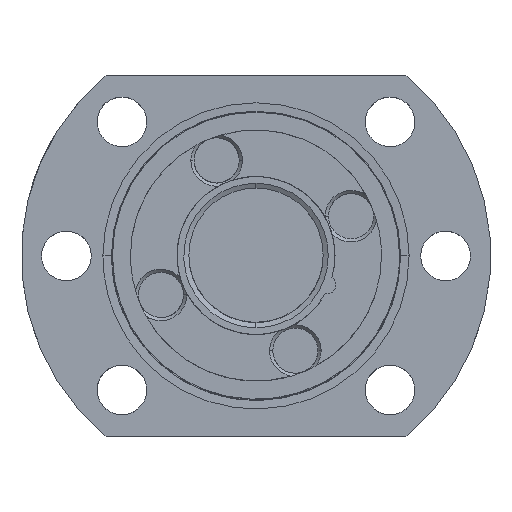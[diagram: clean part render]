
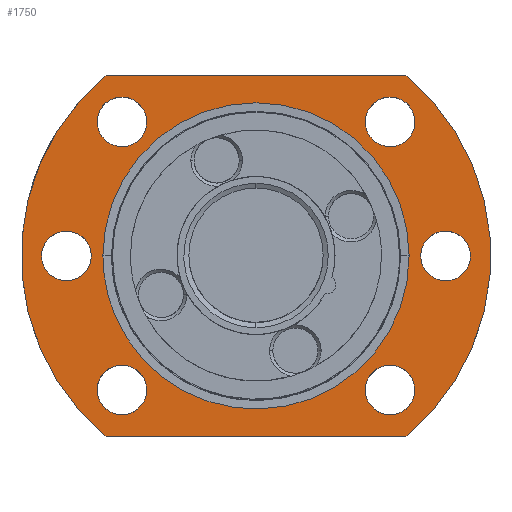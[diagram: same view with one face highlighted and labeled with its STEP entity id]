
A CAD part, top view. The second image highlights one B-rep face of the part: STEP entity #1750.
In plain terms, the highlighted planar face has unit normal (0, 0, 1).
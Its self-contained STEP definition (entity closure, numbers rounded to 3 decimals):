
#10=CARTESIAN_POINT('',(48.829,-26.59,90.));
#20=DIRECTION('',(0.,0.,-1.));
#30=DIRECTION('',(-1.,0.,-0.));
#40=AXIS2_PLACEMENT_3D('',#10,#20,#30);
#50=PLANE('',#40);
#60=CARTESIAN_POINT('',(0.,0.,90.));
#70=DIRECTION('',(0.,0.,-1.));
#80=DIRECTION('',(-1.,0.,0.));
#90=AXIS2_PLACEMENT_3D('',#60,#70,#80);
#100=CIRCLE('',#90,26.);
#110=CARTESIAN_POINT('',(-16.613,-20.,90.));
#120=VERTEX_POINT('217347-1430975224-643150304734-0 3373899',#110);
#130=CARTESIAN_POINT('',(-16.613,20.,90.));
#140=VERTEX_POINT('217347-1430975224-643150304734-0 3373917',#130);
#150=EDGE_CURVE('217347-1430975224-643150304734-0 3373927',#120,#140,
#100,.T.);
#160=ORIENTED_EDGE('',*,*,#150,.F.);
#170=CARTESIAN_POINT('',(0.,20.,90.));
#180=DIRECTION('',(1.,-0.,0.));
#190=VECTOR('',#180,1.);
#200=LINE('',#170,#190);
#210=CARTESIAN_POINT('',(16.613,20.,90.));
#220=VERTEX_POINT('217347-1430975224-643150304734-0 3373908',#210);
#230=EDGE_CURVE('217347-1430975224-643150304734-0 3373921',#140,#220,
#200,.T.);
#240=ORIENTED_EDGE('',*,*,#230,.F.);
#250=CARTESIAN_POINT('',(0.,0.,90.));
#260=DIRECTION('',(0.,0.,-1.));
#270=DIRECTION('',(-1.,0.,0.));
#280=AXIS2_PLACEMENT_3D('',#250,#260,#270);
#290=CIRCLE('',#280,26.);
#300=CARTESIAN_POINT('',(16.613,-20.,90.));
#310=VERTEX_POINT('217347-1430975224-643150304734-0 3373896',#300);
#320=EDGE_CURVE('217347-1430975224-643150304734-0 3373912',#220,#310,
#290,.T.);
#330=ORIENTED_EDGE('',*,*,#320,.F.);
#340=CARTESIAN_POINT('',(0.,-20.,90.));
#350=DIRECTION('',(-1.,-0.,0.));
#360=VECTOR('',#350,1.);
#370=LINE('',#340,#360);
#380=EDGE_CURVE('217347-1430975224-643150304734-0 3373903',#310,#120,
#370,.T.);
#390=ORIENTED_EDGE('',*,*,#380,.F.);
#400=EDGE_LOOP('',(#390,#330,#240,#160));
#410=FACE_OUTER_BOUND('',#400,.T.);
#420=CARTESIAN_POINT('',(21.,0.,90.));
#430=DIRECTION('',(0.,0.,-1.));
#440=DIRECTION('',(-1.,0.,0.));
#450=AXIS2_PLACEMENT_3D('',#420,#430,#440);
#460=CIRCLE('',#450,2.75);
#470=CARTESIAN_POINT('',(23.75,0.,90.));
#480=VERTEX_POINT('',#470);
#490=CARTESIAN_POINT('',(18.25,0.,90.));
#500=VERTEX_POINT('',#490);
#510=EDGE_CURVE('217347-1430975224-643150304734-0 3373941',#480,#500,
#460,.T.);
#520=ORIENTED_EDGE('',*,*,#510,.T.);
#530=CARTESIAN_POINT('',(22.945,1.945,90.));
#540=VERTEX_POINT('217347-1430975224-643150304734-0 3373937',#530);
#550=EDGE_CURVE('217347-1430975224-643150304734-0 3373941',#540,#480,
#460,.T.);
#560=ORIENTED_EDGE('',*,*,#550,.T.);
#570=EDGE_CURVE('217347-1430975224-643150304734-0 3373941',#500,#540,
#460,.T.);
#580=ORIENTED_EDGE('',*,*,#570,.T.);
#590=EDGE_LOOP('',(#580,#560,#520));
#600=FACE_BOUND('',#590,.T.);
#610=CARTESIAN_POINT('',(14.849,-14.849,90.));
#620=DIRECTION('',(0.,0.,-1.));
#630=DIRECTION('',(-1.,0.,0.));
#640=AXIS2_PLACEMENT_3D('',#610,#620,#630);
#650=CIRCLE('',#640,2.75);
#660=CARTESIAN_POINT('',(17.599,-14.849,90.));
#670=VERTEX_POINT('',#660);
#680=CARTESIAN_POINT('',(12.099,-14.849,90.));
#690=VERTEX_POINT('',#680);
#700=EDGE_CURVE('217347-1430975224-643150304734-0 3373961',#670,#690,
#650,.T.);
#710=ORIENTED_EDGE('',*,*,#700,.T.);
#720=CARTESIAN_POINT('',(16.794,-12.905,90.));
#730=VERTEX_POINT('217347-1430975224-643150304734-0 3373957',#720);
#740=EDGE_CURVE('217347-1430975224-643150304734-0 3373961',#730,#670,
#650,.T.);
#750=ORIENTED_EDGE('',*,*,#740,.T.);
#760=EDGE_CURVE('217347-1430975224-643150304734-0 3373961',#690,#730,
#650,.T.);
#770=ORIENTED_EDGE('',*,*,#760,.T.);
#780=EDGE_LOOP('',(#770,#750,#710));
#790=FACE_BOUND('',#780,.T.);
#800=CARTESIAN_POINT('',(-21.,0.,90.));
#810=DIRECTION('',(0.,0.,-1.));
#820=DIRECTION('',(-1.,0.,0.));
#830=AXIS2_PLACEMENT_3D('',#800,#810,#820);
#840=CIRCLE('',#830,2.75);
#850=CARTESIAN_POINT('',(-23.75,0.,90.));
#860=VERTEX_POINT('',#850);
#870=CARTESIAN_POINT('',(-18.25,0.,90.));
#880=VERTEX_POINT('',#870);
#890=EDGE_CURVE('217347-1430975224-643150304734-0 3373981',#860,#880,
#840,.T.);
#900=ORIENTED_EDGE('',*,*,#890,.T.);
#910=CARTESIAN_POINT('',(-22.945,-1.945,90.));
#920=VERTEX_POINT('217347-1430975224-643150304734-0 3373974',#910);
#930=EDGE_CURVE('217347-1430975224-643150304734-0 3373981',#920,#860,
#840,.T.);
#940=ORIENTED_EDGE('',*,*,#930,.T.);
#950=EDGE_CURVE('217347-1430975224-643150304734-0 3373981',#880,#920,
#840,.T.);
#960=ORIENTED_EDGE('',*,*,#950,.T.);
#970=EDGE_LOOP('',(#960,#940,#900));
#980=FACE_BOUND('',#970,.T.);
#990=CARTESIAN_POINT('',(14.849,14.849,90.));
#1000=DIRECTION('',(0.,0.,-1.));
#1010=DIRECTION('',(-1.,0.,0.));
#1020=AXIS2_PLACEMENT_3D('',#990,#1000,#1010);
#1030=CIRCLE('',#1020,2.75);
#1040=CARTESIAN_POINT('',(12.099,14.849,90.));
#1050=VERTEX_POINT('',#1040);
#1060=CARTESIAN_POINT('',(17.599,14.849,90.));
#1070=VERTEX_POINT('',#1060);
#1080=EDGE_CURVE('217347-1430975224-643150304734-0 3374001',#1050,#1070,
#1030,.T.);
#1090=ORIENTED_EDGE('',*,*,#1080,.T.);
#1100=CARTESIAN_POINT('',(12.905,12.905,90.));
#1110=VERTEX_POINT('217347-1430975224-643150304734-0 3373994',#1100);
#1120=EDGE_CURVE('217347-1430975224-643150304734-0 3374001',#1110,#1050,
#1030,.T.);
#1130=ORIENTED_EDGE('',*,*,#1120,.T.);
#1140=EDGE_CURVE('217347-1430975224-643150304734-0 3374001',#1070,#1110,
#1030,.T.);
#1150=ORIENTED_EDGE('',*,*,#1140,.T.);
#1160=EDGE_LOOP('',(#1150,#1130,#1090));
#1170=FACE_BOUND('',#1160,.T.);
#1180=CARTESIAN_POINT('',(0.,0.,
90.));
#1190=DIRECTION('',(0.,0.,1.));
#1200=DIRECTION('',(1.,0.,0.));
#1210=AXIS2_PLACEMENT_3D('',#1180,#1190,#1200);
#1220=CIRCLE('',#1210,16.959);
#1230=CARTESIAN_POINT('',(-15.668,-6.49,90.));
#1240=VERTEX_POINT('217347-1430975224-643150304734-0 3374017',#1230);
#1250=CARTESIAN_POINT('',(16.959,0.,
90.));
#1260=VERTEX_POINT('',#1250);
#1270=EDGE_CURVE('217347-1430975224-643150304734-0 3374021',#1240,#1260,
#1220,.T.);
#1280=ORIENTED_EDGE('',*,*,#1270,.F.);
#1290=CARTESIAN_POINT('',(-16.959,0.,
90.));
#1300=VERTEX_POINT('',#1290);
#1310=EDGE_CURVE('217347-1430975224-643150304734-0 3374021',#1260,#1300,
#1220,.T.);
#1320=ORIENTED_EDGE('',*,*,#1310,.F.);
#1330=EDGE_CURVE('217347-1430975224-643150304734-0 3374021',#1300,#1240,
#1220,.T.);
#1340=ORIENTED_EDGE('',*,*,#1330,.F.);
#1350=EDGE_LOOP('',(#1340,#1320,#1280));
#1360=FACE_BOUND('',#1350,.T.);
#1370=CARTESIAN_POINT('',(-14.849,14.849,90.));
#1380=DIRECTION('',(0.,0.,-1.));
#1390=DIRECTION('',(-1.,0.,0.));
#1400=AXIS2_PLACEMENT_3D('',#1370,#1380,#1390);
#1410=CIRCLE('',#1400,2.75);
#1420=CARTESIAN_POINT('',(-17.599,14.849,90.));
#1430=VERTEX_POINT('',#1420);
#1440=CARTESIAN_POINT('',(-12.099,14.849,90.));
#1450=VERTEX_POINT('',#1440);
#1460=EDGE_CURVE('217347-1430975224-643150304734-0 3374041',#1430,#1450,
#1410,.T.);
#1470=ORIENTED_EDGE('',*,*,#1460,.T.);
#1480=CARTESIAN_POINT('',(-16.794,12.905,90.));
#1490=VERTEX_POINT('217347-1430975224-643150304734-0 3374034',#1480);
#1500=EDGE_CURVE('217347-1430975224-643150304734-0 3374041',#1490,#1430,
#1410,.T.);
#1510=ORIENTED_EDGE('',*,*,#1500,.T.);
#1520=EDGE_CURVE('217347-1430975224-643150304734-0 3374041',#1450,#1490,
#1410,.T.);
#1530=ORIENTED_EDGE('',*,*,#1520,.T.);
#1540=EDGE_LOOP('',(#1530,#1510,#1470));
#1550=FACE_BOUND('',#1540,.T.);
#1560=CARTESIAN_POINT('',(-14.849,-14.849,90.));
#1570=DIRECTION('',(0.,0.,-1.));
#1580=DIRECTION('',(-1.,0.,0.));
#1590=AXIS2_PLACEMENT_3D('',#1560,#1570,#1580);
#1600=CIRCLE('',#1590,2.75);
#1610=CARTESIAN_POINT('',(-12.099,-14.849,90.));
#1620=VERTEX_POINT('',#1610);
#1630=CARTESIAN_POINT('',(-17.599,-14.849,90.));
#1640=VERTEX_POINT('',#1630);
#1650=EDGE_CURVE('217347-1430975224-643150304734-0 3374061',#1620,#1640,
#1600,.T.);
#1660=ORIENTED_EDGE('',*,*,#1650,.T.);
#1670=CARTESIAN_POINT('',(-12.905,-12.905,90.));
#1680=VERTEX_POINT('217347-1430975224-643150304734-0 3374057',#1670);
#1690=EDGE_CURVE('217347-1430975224-643150304734-0 3374061',#1680,#1620,
#1600,.T.);
#1700=ORIENTED_EDGE('',*,*,#1690,.T.);
#1710=EDGE_CURVE('217347-1430975224-643150304734-0 3374061',#1640,#1680,
#1600,.T.);
#1720=ORIENTED_EDGE('',*,*,#1710,.T.);
#1730=EDGE_LOOP('',(#1720,#1700,#1660));
#1740=FACE_BOUND('',#1730,.T.);
#1750=ADVANCED_FACE('217347-1430975224-643150304734-0 3373893',(#410,
#600,#790,#980,#1170,#1360,#1550,#1740),#50,.F.);
